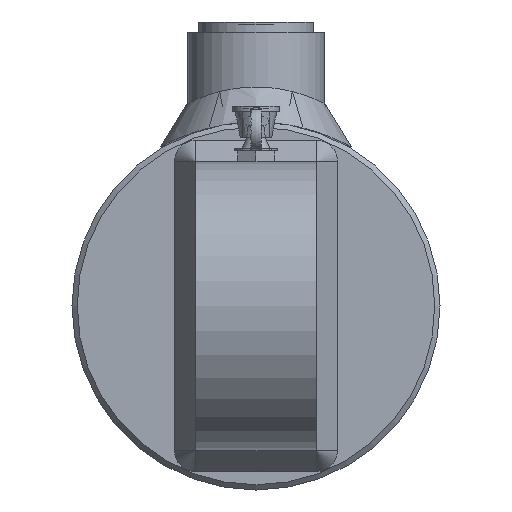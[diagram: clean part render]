
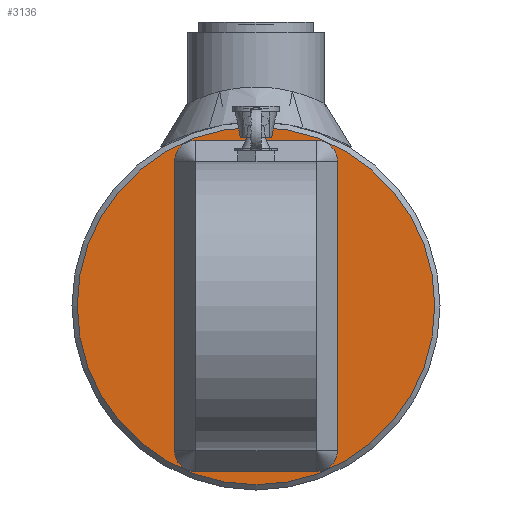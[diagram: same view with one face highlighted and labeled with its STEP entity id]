
A CAD part, left-side view. The second image highlights one B-rep face of the part: STEP entity #3136.
In plain terms, the highlighted planar face has unit normal (-1, 0, 0).
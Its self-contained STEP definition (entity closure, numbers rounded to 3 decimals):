
#3136 = ADVANCED_FACE( '', ( #7771 ), #7772, .T. );
#7771 = FACE_OUTER_BOUND( '', #9706, .T. );
#7772 = PLANE( '', #9707 );
#9706 = EDGE_LOOP( '', ( #10620 ) );
#9707 = AXIS2_PLACEMENT_3D( '', #10621, #10622, #10623 );
#10620 = ORIENTED_EDGE( '', *, *, #11856, .T. );
#10621 = CARTESIAN_POINT( '', ( -12., 0., 0. ) );
#10622 = DIRECTION( '', ( -1., 0., 0. ) );
#10623 = DIRECTION( '', ( 0., -1., 0. ) );
#11856 = EDGE_CURVE( '', #14797, #14797, #14798, .T. );
#14797 = VERTEX_POINT( '', #15787 );
#14798 = CIRCLE( '', #15788, 34. );
#15787 = CARTESIAN_POINT( '', ( -12., -34., 0. ) );
#15788 = AXIS2_PLACEMENT_3D( '', #16031, #16032, #16033 );
#16031 = CARTESIAN_POINT( '', ( -12., 0., 0. ) );
#16032 = DIRECTION( '', ( -1., 0., 0. ) );
#16033 = DIRECTION( '', ( 0., -1., 0. ) );
